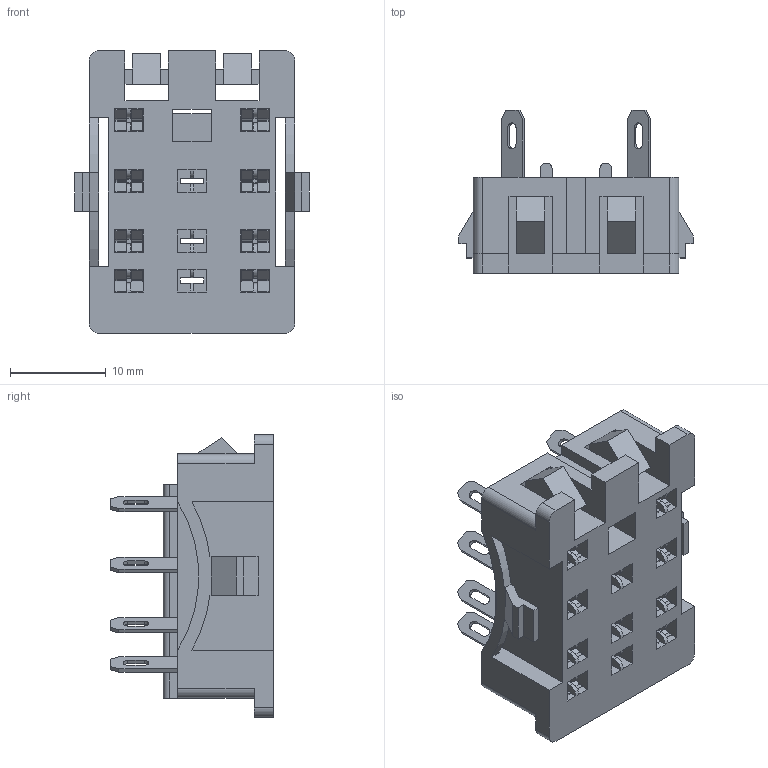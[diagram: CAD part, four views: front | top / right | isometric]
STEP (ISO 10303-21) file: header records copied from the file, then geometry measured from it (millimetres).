
FILE_DESCRIPTION(/* description */ (''),/* implementation_level */ '2;1');
FILE_NAME(/* name */ 'C:\Desktop\3D 94.22\94.22.stp',/* time_stamp */ '2016-03-09T10:06:26+01:00',/* author */ ('marco'),/* organization */ (''),/* preprocessor_version */ 'ST-DEVELOPER v16.1',/* originating_system */ 'Autodesk Inventor 2016',/* authorisation */ '');
FILE_SCHEMA (('AUTOMOTIVE_DESIGN { 1 0 10303 214 3 1 1 }'));
Length unit declared in the file: millimetre
Products named in the file (5): EF00214_94.22_23; a; b; a+b; 94.22
Assembly tree (11 placements, depth 3):
  94.22
    EF00214_94.22_23
    a+b  x8
      a
      b
Bounding box: 24.5 x 17 x 29.5 mm (x, y, z)
Volume: 4276.8 mm3; surface area: 5452.2 mm2
Topology: 17 solids, 17 shells, 968 faces, 2772 edges, 1830 vertices
Faces by surface type: plane 754, cylinder 214
Entity records: 12461 total; most frequent: CARTESIAN_POINT 2198, ORIENTED_EDGE 2184, DIRECTION 2004, EDGE_CURVE 1092, LINE 972, VECTOR 972, VERTEX_POINT 710, AXIS2_PLACEMENT_3D 516
